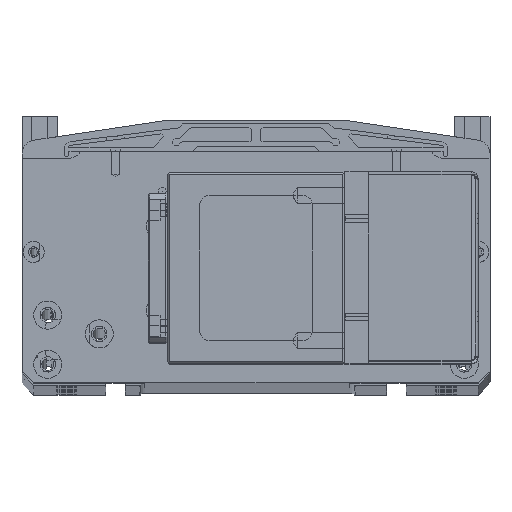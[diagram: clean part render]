
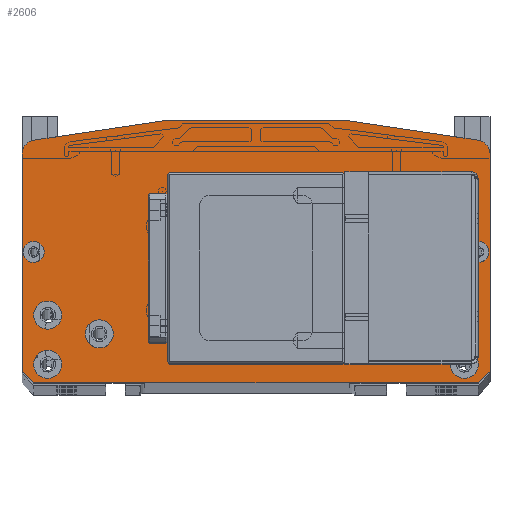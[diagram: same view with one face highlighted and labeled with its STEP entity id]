
A CAD part, top view. The second image highlights one B-rep face of the part: STEP entity #2606.
In plain terms, the highlighted planar face has unit normal (0, 0, 1).
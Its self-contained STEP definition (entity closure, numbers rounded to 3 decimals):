
#608=FACE_BOUND('',#5215,.T.);
#609=FACE_BOUND('',#5216,.T.);
#610=FACE_BOUND('',#5217,.T.);
#611=FACE_BOUND('',#5218,.T.);
#612=FACE_BOUND('',#5219,.T.);
#613=FACE_BOUND('',#5220,.T.);
#614=FACE_BOUND('',#5221,.T.);
#615=FACE_BOUND('',#5222,.T.);
#616=FACE_BOUND('',#5223,.T.);
#617=FACE_BOUND('',#5224,.T.);
#618=FACE_BOUND('',#5225,.T.);
#619=FACE_BOUND('',#5226,.T.);
#620=FACE_BOUND('',#5227,.T.);
#2606=ADVANCED_FACE('',(#608,#609,#610,#611,#612,#613,#614,#615,#616,#617,
#618,#619,#620),#3299,.F.);
#3299=PLANE('',#21780);
#5215=EDGE_LOOP('',(#12566,#12567,#12568,#12569));
#5216=EDGE_LOOP('',(#12570,#12571,#12572,#12573));
#5217=EDGE_LOOP('',(#12574));
#5218=EDGE_LOOP('',(#12575));
#5219=EDGE_LOOP('',(#12576,#12577,#12578,#12579,#12580,#12581,#12582,#12583,
#12584,#12585));
#5220=EDGE_LOOP('',(#12586));
#5221=EDGE_LOOP('',(#12587));
#5222=EDGE_LOOP('',(#12588));
#5223=EDGE_LOOP('',(#12589));
#5224=EDGE_LOOP('',(#12590));
#5225=EDGE_LOOP('',(#12591));
#5226=EDGE_LOOP('',(#12592));
#5227=EDGE_LOOP('',(#12593));
#6089=LINE('',#32319,#7622);
#6282=LINE('',#33542,#7815);
#6302=LINE('',#33587,#7835);
#6907=LINE('',#37588,#8440);
#6911=LINE('',#37596,#8444);
#6914=LINE('',#37602,#8447);
#6934=LINE('',#37638,#8467);
#6954=LINE('',#37810,#8487);
#6956=LINE('',#37813,#8489);
#6962=LINE('',#37826,#8495);
#6965=LINE('',#37832,#8498);
#6978=LINE('',#37868,#8511);
#6980=LINE('',#37953,#8513);
#6981=LINE('',#37956,#8514);
#6982=LINE('',#37958,#8515);
#6983=LINE('',#37960,#8516);
#7622=VECTOR('',#23450,1.);
#7815=VECTOR('',#23939,1.);
#7835=VECTOR('',#23989,1.);
#8440=VECTOR('',#26042,1.);
#8444=VECTOR('',#26048,1.);
#8447=VECTOR('',#26053,1.);
#8467=VECTOR('',#26085,1.);
#8487=VECTOR('',#26301,1.);
#8489=VECTOR('',#26305,1.);
#8495=VECTOR('',#26313,1.);
#8498=VECTOR('',#26318,1.);
#8511=VECTOR('',#26365,1.);
#8513=VECTOR('',#26485,1.);
#8514=VECTOR('',#26486,1.);
#8515=VECTOR('',#26487,1.);
#8516=VECTOR('',#26488,1.);
#12566=ORIENTED_EDGE('',*,*,#18750,.F.);
#12567=ORIENTED_EDGE('',*,*,#18751,.F.);
#12568=ORIENTED_EDGE('',*,*,#18752,.T.);
#12569=ORIENTED_EDGE('',*,*,#18753,.T.);
#12570=ORIENTED_EDGE('',*,*,#18593,.T.);
#12571=ORIENTED_EDGE('',*,*,#18596,.T.);
#12572=ORIENTED_EDGE('',*,*,#18616,.T.);
#12573=ORIENTED_EDGE('',*,*,#18589,.T.);
#12574=ORIENTED_EDGE('',*,*,#18651,.T.);
#12575=ORIENTED_EDGE('',*,*,#18679,.T.);
#12576=ORIENTED_EDGE('',*,*,#18684,.F.);
#12577=ORIENTED_EDGE('',*,*,#17526,.T.);
#12578=ORIENTED_EDGE('',*,*,#18716,.F.);
#12579=ORIENTED_EDGE('',*,*,#17550,.T.);
#12580=ORIENTED_EDGE('',*,*,#18715,.F.);
#12581=ORIENTED_EDGE('',*,*,#18686,.F.);
#12582=ORIENTED_EDGE('',*,*,#18692,.T.);
#12583=ORIENTED_EDGE('',*,*,#18695,.F.);
#12584=ORIENTED_EDGE('',*,*,#18696,.F.);
#12585=ORIENTED_EDGE('',*,*,#17217,.T.);
#12586=ORIENTED_EDGE('',*,*,#18746,.T.);
#12587=ORIENTED_EDGE('',*,*,#18742,.T.);
#12588=ORIENTED_EDGE('',*,*,#18738,.T.);
#12589=ORIENTED_EDGE('',*,*,#18734,.T.);
#12590=ORIENTED_EDGE('',*,*,#18730,.T.);
#12591=ORIENTED_EDGE('',*,*,#18726,.T.);
#12592=ORIENTED_EDGE('',*,*,#18722,.T.);
#12593=ORIENTED_EDGE('',*,*,#18718,.T.);
#15102=VERTEX_POINT('',#32318);
#15103=VERTEX_POINT('',#32320);
#15286=VERTEX_POINT('',#33541);
#15287=VERTEX_POINT('',#33543);
#15296=VERTEX_POINT('',#33586);
#15297=VERTEX_POINT('',#33588);
#15979=VERTEX_POINT('',#37578);
#15983=VERTEX_POINT('',#37587);
#15986=VERTEX_POINT('',#37595);
#15988=VERTEX_POINT('',#37601);
#16029=VERTEX_POINT('',#37735);
#16046=VERTEX_POINT('',#37794);
#16053=VERTEX_POINT('',#37814);
#16054=VERTEX_POINT('',#37815);
#16058=VERTEX_POINT('',#37825);
#16060=VERTEX_POINT('',#37831);
#16067=VERTEX_POINT('',#37872);
#16070=VERTEX_POINT('',#37882);
#16073=VERTEX_POINT('',#37892);
#16076=VERTEX_POINT('',#37902);
#16079=VERTEX_POINT('',#37912);
#16082=VERTEX_POINT('',#37922);
#16085=VERTEX_POINT('',#37932);
#16088=VERTEX_POINT('',#37942);
#16091=VERTEX_POINT('',#37954);
#16092=VERTEX_POINT('',#37955);
#16093=VERTEX_POINT('',#37957);
#16094=VERTEX_POINT('',#37959);
#17217=EDGE_CURVE('',#15103,#15102,#6089,.T.);
#17526=EDGE_CURVE('',#15287,#15286,#6282,.T.);
#17550=EDGE_CURVE('',#15297,#15296,#6302,.T.);
#18589=EDGE_CURVE('',#15979,#15983,#6907,.T.);
#18593=EDGE_CURVE('',#15983,#15986,#6911,.T.);
#18596=EDGE_CURVE('',#15986,#15988,#6914,.T.);
#18616=EDGE_CURVE('',#15988,#15979,#6934,.T.);
#18651=EDGE_CURVE('',#16029,#16029,#20017,.T.);
#18679=EDGE_CURVE('',#16046,#16046,#20032,.T.);
#18684=EDGE_CURVE('',#15287,#15102,#6954,.T.);
#18686=EDGE_CURVE('',#16053,#16054,#6956,.T.);
#18692=EDGE_CURVE('',#16053,#16058,#6962,.T.);
#18695=EDGE_CURVE('',#16060,#16058,#6965,.T.);
#18696=EDGE_CURVE('',#15103,#16060,#20037,.T.);
#18715=EDGE_CURVE('',#16054,#15296,#20044,.T.);
#18716=EDGE_CURVE('',#15297,#15286,#6978,.T.);
#18718=EDGE_CURVE('',#16067,#16067,#20045,.T.);
#18722=EDGE_CURVE('',#16070,#16070,#20049,.T.);
#18726=EDGE_CURVE('',#16073,#16073,#20053,.T.);
#18730=EDGE_CURVE('',#16076,#16076,#20057,.T.);
#18734=EDGE_CURVE('',#16079,#16079,#20061,.T.);
#18738=EDGE_CURVE('',#16082,#16082,#20065,.T.);
#18742=EDGE_CURVE('',#16085,#16085,#20069,.T.);
#18746=EDGE_CURVE('',#16088,#16088,#20073,.T.);
#18750=EDGE_CURVE('',#16091,#16092,#6980,.T.);
#18751=EDGE_CURVE('',#16093,#16091,#6981,.T.);
#18752=EDGE_CURVE('',#16093,#16094,#6982,.T.);
#18753=EDGE_CURVE('',#16094,#16092,#6983,.T.);
#20017=CIRCLE('',#21662,1.65);
#20032=CIRCLE('',#21691,1.65);
#20037=CIRCLE('',#21705,6.);
#20044=CIRCLE('',#21719,6.);
#20045=CIRCLE('',#21722,4.5);
#20049=CIRCLE('',#21729,4.5);
#20053=CIRCLE('',#21736,6.);
#20057=CIRCLE('',#21743,6.);
#20061=CIRCLE('',#21750,6.);
#20065=CIRCLE('',#21757,6.);
#20069=CIRCLE('',#21764,6.);
#20073=CIRCLE('',#21771,6.);
#21662=AXIS2_PLACEMENT_3D('',#37734,#26210,#26211);
#21691=AXIS2_PLACEMENT_3D('',#37793,#26281,#26282);
#21705=AXIS2_PLACEMENT_3D('',#37834,#26321,#26322);
#21719=AXIS2_PLACEMENT_3D('',#37866,#26361,#26362);
#21722=AXIS2_PLACEMENT_3D('',#37871,#26369,#26370);
#21729=AXIS2_PLACEMENT_3D('',#37881,#26383,#26384);
#21736=AXIS2_PLACEMENT_3D('',#37891,#26397,#26398);
#21743=AXIS2_PLACEMENT_3D('',#37901,#26411,#26412);
#21750=AXIS2_PLACEMENT_3D('',#37911,#26425,#26426);
#21757=AXIS2_PLACEMENT_3D('',#37921,#26439,#26440);
#21764=AXIS2_PLACEMENT_3D('',#37931,#26453,#26454);
#21771=AXIS2_PLACEMENT_3D('',#37941,#26467,#26468);
#21780=AXIS2_PLACEMENT_3D('',#37961,#26489,#26490);
#23450=DIRECTION('',(0.,-1.,0.));
#23939=DIRECTION('',(1.,0.,0.));
#23989=DIRECTION('',(0.,1.,0.));
#26042=DIRECTION('',(0.,1.,0.));
#26048=DIRECTION('',(1.,0.,0.));
#26053=DIRECTION('',(0.,-1.,0.));
#26085=DIRECTION('',(-1.,0.,0.));
#26210=DIRECTION('',(0.,0.,-1.));
#26211=DIRECTION('',(1.,0.,0.));
#26281=DIRECTION('',(0.,0.,-1.));
#26282=DIRECTION('',(1.,0.,0.));
#26301=DIRECTION('',(-0.707,0.707,0.));
#26305=DIRECTION('',(0.989,-0.148,0.));
#26313=DIRECTION('',(-1.,0.,0.));
#26318=DIRECTION('',(0.989,0.148,0.));
#26321=DIRECTION('',(0.,0.,-1.));
#26322=DIRECTION('',(-1.,0.,0.));
#26361=DIRECTION('',(0.,0.,-1.));
#26362=DIRECTION('',(0.148,0.989,0.));
#26365=DIRECTION('',(-0.707,-0.707,0.));
#26369=DIRECTION('',(0.,0.,-1.));
#26370=DIRECTION('',(1.,0.,0.));
#26383=DIRECTION('',(0.,0.,-1.));
#26384=DIRECTION('',(1.,0.,0.));
#26397=DIRECTION('',(0.,0.,-1.));
#26398=DIRECTION('',(1.,0.,0.));
#26411=DIRECTION('',(0.,0.,-1.));
#26412=DIRECTION('',(1.,0.,0.));
#26425=DIRECTION('',(0.,0.,-1.));
#26426=DIRECTION('',(1.,0.,0.));
#26439=DIRECTION('',(0.,0.,-1.));
#26440=DIRECTION('',(1.,0.,0.));
#26453=DIRECTION('',(0.,0.,-1.));
#26454=DIRECTION('',(1.,0.,0.));
#26467=DIRECTION('',(0.,0.,-1.));
#26468=DIRECTION('',(1.,0.,0.));
#26485=DIRECTION('',(1.,0.,0.));
#26486=DIRECTION('',(0.,-1.,0.));
#26487=DIRECTION('',(1.,0.,0.));
#26488=DIRECTION('',(0.,-1.,0.));
#26489=DIRECTION('',(0.,0.,-1.));
#26490=DIRECTION('',(-1.,0.,0.));
#32318=CARTESIAN_POINT('',(-100.,7.,463.));
#32319=CARTESIAN_POINT('',(-100.,99.833,463.));
#32320=CARTESIAN_POINT('',(-100.,99.833,463.));
#33541=CARTESIAN_POINT('',(95.,2.,463.));
#33542=CARTESIAN_POINT('',(67.5,2.,463.));
#33543=CARTESIAN_POINT('',(-95.,2.,463.));
#33586=CARTESIAN_POINT('',(100.,99.833,463.));
#33587=CARTESIAN_POINT('',(100.,7.,463.));
#33588=CARTESIAN_POINT('',(100.,7.,463.));
#37578=CARTESIAN_POINT('',(-37.,11.,463.));
#37587=CARTESIAN_POINT('',(-37.,91.,463.));
#37588=CARTESIAN_POINT('',(-37.,11.,463.));
#37595=CARTESIAN_POINT('',(37.,91.,463.));
#37596=CARTESIAN_POINT('',(-37.,91.,463.));
#37601=CARTESIAN_POINT('',(37.,11.,463.));
#37602=CARTESIAN_POINT('',(37.,91.,463.));
#37638=CARTESIAN_POINT('',(37.,11.,463.));
#37734=CARTESIAN_POINT('',(42.,69.,463.));
#37735=CARTESIAN_POINT('',(43.65,69.,463.));
#37793=CARTESIAN_POINT('',(42.,33.,463.));
#37794=CARTESIAN_POINT('',(43.65,33.,463.));
#37810=CARTESIAN_POINT('',(-95.,2.,463.));
#37813=CARTESIAN_POINT('',(40.,114.,463.));
#37814=CARTESIAN_POINT('',(40.,114.,463.));
#37815=CARTESIAN_POINT('',(94.89,105.766,463.));
#37825=CARTESIAN_POINT('',(-40.,114.,463.));
#37826=CARTESIAN_POINT('',(40.,114.,463.));
#37831=CARTESIAN_POINT('',(-94.89,105.766,463.));
#37832=CARTESIAN_POINT('',(-94.89,105.766,463.));
#37834=CARTESIAN_POINT('',(-94.,99.833,463.));
#37866=CARTESIAN_POINT('',(94.,99.833,463.));
#37868=CARTESIAN_POINT('',(100.,7.,463.));
#37871=CARTESIAN_POINT('',(-95.,58.,463.));
#37872=CARTESIAN_POINT('',(-90.5,58.,463.));
#37881=CARTESIAN_POINT('',(95.,58.,463.));
#37882=CARTESIAN_POINT('',(99.5,58.,463.));
#37891=CARTESIAN_POINT('',(-67.,23.,463.));
#37892=CARTESIAN_POINT('',(-61.,23.,463.));
#37901=CARTESIAN_POINT('',(67.,23.,463.));
#37902=CARTESIAN_POINT('',(73.,23.,463.));
#37911=CARTESIAN_POINT('',(-89.,31.,463.));
#37912=CARTESIAN_POINT('',(-83.,31.,463.));
#37921=CARTESIAN_POINT('',(89.,31.,463.));
#37922=CARTESIAN_POINT('',(95.,31.,463.));
#37931=CARTESIAN_POINT('',(-89.,10.,463.));
#37932=CARTESIAN_POINT('',(-83.,10.,463.));
#37941=CARTESIAN_POINT('',(89.,10.,463.));
#37942=CARTESIAN_POINT('',(95.,10.,463.));
#37953=CARTESIAN_POINT('',(-45.5,21.534,463.));
#37954=CARTESIAN_POINT('',(-45.5,21.534,463.));
#37955=CARTESIAN_POINT('',(-38.5,21.534,463.));
#37956=CARTESIAN_POINT('',(-45.5,80.466,463.));
#37957=CARTESIAN_POINT('',(-45.5,80.466,463.));
#37958=CARTESIAN_POINT('',(-45.5,80.466,463.));
#37959=CARTESIAN_POINT('',(-38.5,80.466,463.));
#37960=CARTESIAN_POINT('',(-38.5,80.466,463.));
#37961=CARTESIAN_POINT('',(0.,2.,463.));
